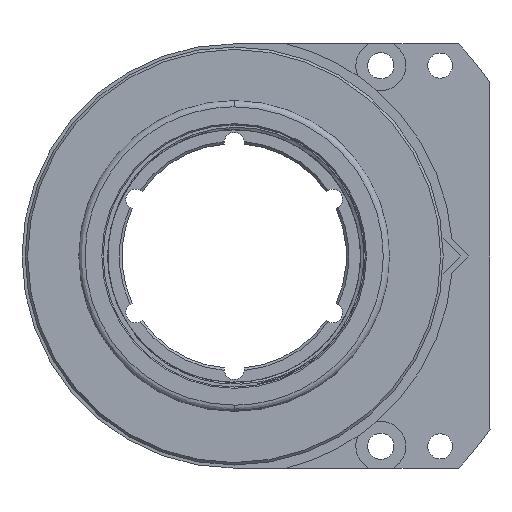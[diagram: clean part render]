
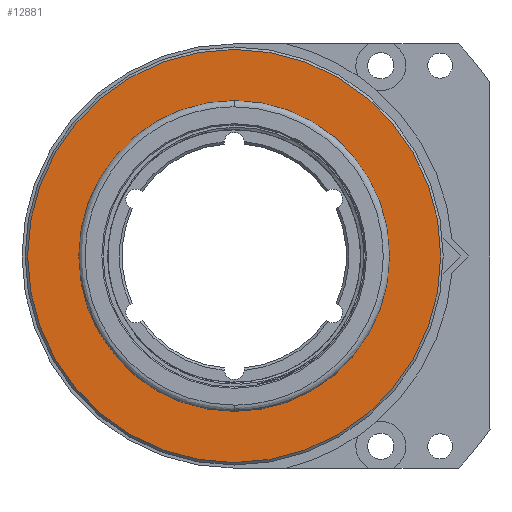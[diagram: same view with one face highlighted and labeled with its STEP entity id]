
A CAD part, front view. The second image highlights one B-rep face of the part: STEP entity #12881.
In plain terms, the highlighted planar face has unit normal (0, -1, 0).
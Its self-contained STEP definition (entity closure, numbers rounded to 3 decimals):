
#440 = EDGE_CURVE ( 'NONE', #28913, #28913, #27543, .T. ) ;
#2036 = ORIENTED_EDGE ( 'NONE', *, *, #29295, .T. ) ;
#3107 = AXIS2_PLACEMENT_3D ( 'NONE', #10565, #28790, #19741 ) ;
#3540 = AXIS2_PLACEMENT_3D ( 'NONE', #30191, #13805, #16092 ) ;
#6453 = FACE_BOUND ( 'NONE', #13022, .T. ) ;
#8841 = CARTESIAN_POINT ( 'NONE',  ( 0., 4.101, 12.45 ) ) ;
#10396 = CARTESIAN_POINT ( 'NONE',  ( 0., 4.101, -16.55 ) ) ;
#10565 = CARTESIAN_POINT ( 'NONE',  ( 0., 4.101, 0. ) ) ;
#11298 = VERTEX_POINT ( 'NONE', #8841 ) ;
#12881 = ADVANCED_FACE ( 'NONE', ( #6453, #15951 ), #29750, .T. ) ;
#13022 = EDGE_LOOP ( 'NONE', ( #2036 ) ) ;
#13805 = DIRECTION ( 'NONE',  ( 0., 1., 0. ) ) ;
#15649 = EDGE_LOOP ( 'NONE', ( #29789 ) ) ;
#15729 = AXIS2_PLACEMENT_3D ( 'NONE', #18104, #16103, #15796 ) ;
#15796 = DIRECTION ( 'NONE',  ( 0., 0., -1. ) ) ;
#15951 = FACE_OUTER_BOUND ( 'NONE', #15649, .T. ) ;
#16092 = DIRECTION ( 'NONE',  ( 0., 0., 1. ) ) ;
#16103 = DIRECTION ( 'NONE',  ( 0., -1., 0. ) ) ;
#16816 = CIRCLE ( 'NONE', #3540, 12.45 ) ;
#18104 = CARTESIAN_POINT ( 'NONE',  ( -16.749, 4.101, 16.749 ) ) ;
#19741 = DIRECTION ( 'NONE',  ( 0., 0., -1. ) ) ;
#27543 = CIRCLE ( 'NONE', #3107, 16.55 ) ;
#28790 = DIRECTION ( 'NONE',  ( 0., -1., 0. ) ) ;
#28913 = VERTEX_POINT ( 'NONE', #10396 ) ;
#29295 = EDGE_CURVE ( 'NONE', #11298, #11298, #16816, .T. ) ;
#29750 = PLANE ( 'NONE',  #15729 ) ;
#29789 = ORIENTED_EDGE ( 'NONE', *, *, #440, .T. ) ;
#30191 = CARTESIAN_POINT ( 'NONE',  ( 0., 4.101, 0. ) ) ;
